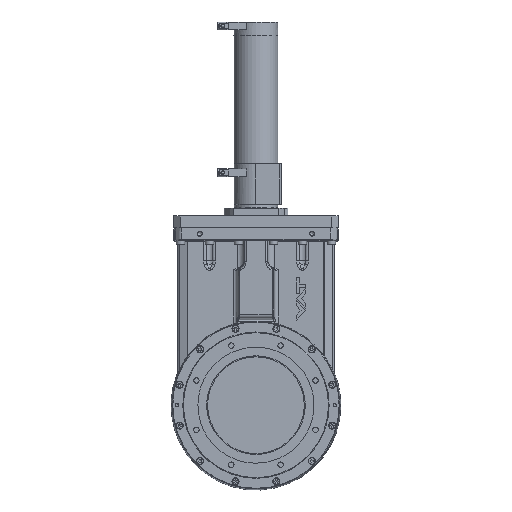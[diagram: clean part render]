
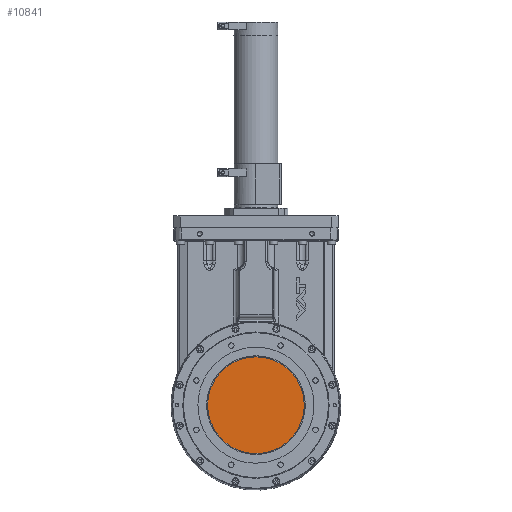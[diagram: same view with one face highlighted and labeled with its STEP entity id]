
A CAD part, top view. The second image highlights one B-rep face of the part: STEP entity #10841.
In plain terms, the highlighted planar face has unit normal (0, 0, 1).
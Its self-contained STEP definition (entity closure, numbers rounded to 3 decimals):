
#9362=PLANE('',#28719);
#9930=FACE_OUTER_BOUND('',#14146,.T.);
#10841=ADVANCED_FACE('',(#9930),#9362,.T.);
#14146=EDGE_LOOP('',(#16324));
#16324=ORIENTED_EDGE('',*,*,#24523,.T.);
#22362=VERTEX_POINT('',#37418);
#24523=EDGE_CURVE('',#22362,#22362,#27543,.T.);
#27543=CIRCLE('',#28716,77.);
#28716=AXIS2_PLACEMENT_3D('',#37417,#31231,#31232);
#28719=AXIS2_PLACEMENT_3D('',#37421,#31237,#31238);
#31231=DIRECTION('',(0.,0.,1.));
#31232=DIRECTION('',(1.,0.,0.));
#31237=DIRECTION('',(0.,0.,1.));
#31238=DIRECTION('',(1.,0.,0.));
#37417=CARTESIAN_POINT('',(0.,0.,0.));
#37418=CARTESIAN_POINT('',(77.,0.,0.));
#37421=CARTESIAN_POINT('',(0.,0.,0.));
